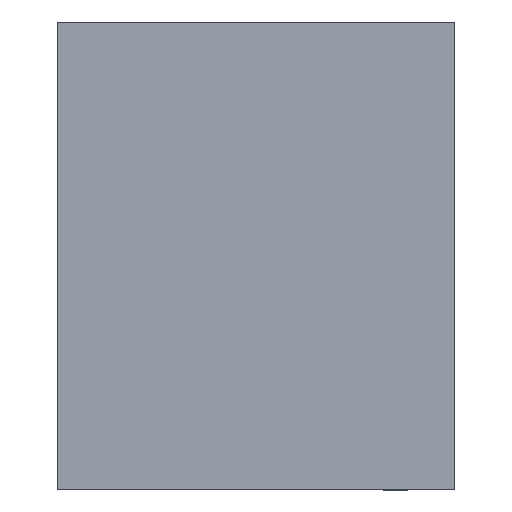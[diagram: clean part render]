
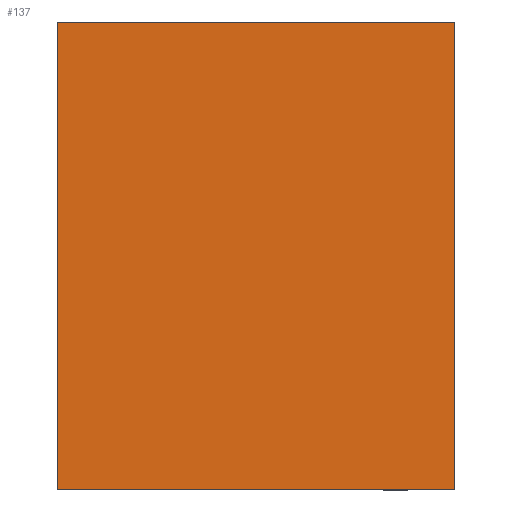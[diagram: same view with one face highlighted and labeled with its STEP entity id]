
A CAD part, front view. The second image highlights one B-rep face of the part: STEP entity #137.
In plain terms, the highlighted planar face has unit normal (0, -1, 0).
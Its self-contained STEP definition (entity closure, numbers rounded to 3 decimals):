
#21 = EDGE_CURVE('',#22,#24,#26,.T.);
#22 = VERTEX_POINT('',#23);
#23 = CARTESIAN_POINT('',(-42.5,-20.25,-50.));
#24 = VERTEX_POINT('',#25);
#25 = CARTESIAN_POINT('',(-42.5,-20.25,50.));
#26 = SURFACE_CURVE('',#27,(#31,#43),.PCURVE_S1.);
#27 = LINE('',#28,#29);
#28 = CARTESIAN_POINT('',(-42.5,-20.25,-50.));
#29 = VECTOR('',#30,1.);
#30 = DIRECTION('',(0.,0.,1.));
#31 = PCURVE('',#32,#37);
#32 = PLANE('',#33);
#33 = AXIS2_PLACEMENT_3D('',#34,#35,#36);
#34 = CARTESIAN_POINT('',(-42.5,-20.25,-50.));
#35 = DIRECTION('',(1.,0.,0.));
#36 = DIRECTION('',(0.,0.,1.));
#37 = DEFINITIONAL_REPRESENTATION('',(#38),#42);
#38 = LINE('',#39,#40);
#39 = CARTESIAN_POINT('',(0.,0.));
#40 = VECTOR('',#41,1.);
#41 = DIRECTION('',(1.,0.));
#42 = ( GEOMETRIC_REPRESENTATION_CONTEXT(2) 
PARAMETRIC_REPRESENTATION_CONTEXT() REPRESENTATION_CONTEXT('2D SPACE',''
  ) );
#43 = PCURVE('',#44,#49);
#44 = PLANE('',#45);
#45 = AXIS2_PLACEMENT_3D('',#46,#47,#48);
#46 = CARTESIAN_POINT('',(-42.5,-20.25,-50.));
#47 = DIRECTION('',(0.,1.,0.));
#48 = DIRECTION('',(0.,0.,1.));
#49 = DEFINITIONAL_REPRESENTATION('',(#50),#54);
#50 = LINE('',#51,#52);
#51 = CARTESIAN_POINT('',(0.,0.));
#52 = VECTOR('',#53,1.);
#53 = DIRECTION('',(1.,0.));
#54 = ( GEOMETRIC_REPRESENTATION_CONTEXT(2) 
PARAMETRIC_REPRESENTATION_CONTEXT() REPRESENTATION_CONTEXT('2D SPACE',''
  ) );
#72 = PLANE('',#73);
#73 = AXIS2_PLACEMENT_3D('',#74,#75,#76);
#74 = CARTESIAN_POINT('',(-42.5,-20.25,-50.));
#75 = DIRECTION('',(0.,0.,1.));
#76 = DIRECTION('',(1.,0.,0.));
#126 = PLANE('',#127);
#127 = AXIS2_PLACEMENT_3D('',#128,#129,#130);
#128 = CARTESIAN_POINT('',(-42.5,-20.25,50.));
#129 = DIRECTION('',(0.,0.,1.));
#130 = DIRECTION('',(1.,0.,0.));
#137 = ADVANCED_FACE('',(#138),#44,.F.);
#138 = FACE_BOUND('',#139,.F.);
#139 = EDGE_LOOP('',(#140,#163,#164,#187));
#140 = ORIENTED_EDGE('',*,*,#141,.F.);
#141 = EDGE_CURVE('',#22,#142,#144,.T.);
#142 = VERTEX_POINT('',#143);
#143 = CARTESIAN_POINT('',(42.5,-20.25,-50.));
#144 = SURFACE_CURVE('',#145,(#149,#156),.PCURVE_S1.);
#145 = LINE('',#146,#147);
#146 = CARTESIAN_POINT('',(-42.5,-20.25,-50.));
#147 = VECTOR('',#148,1.);
#148 = DIRECTION('',(1.,0.,0.));
#149 = PCURVE('',#44,#150);
#150 = DEFINITIONAL_REPRESENTATION('',(#151),#155);
#151 = LINE('',#152,#153);
#152 = CARTESIAN_POINT('',(0.,0.));
#153 = VECTOR('',#154,1.);
#154 = DIRECTION('',(0.,1.));
#155 = ( GEOMETRIC_REPRESENTATION_CONTEXT(2) 
PARAMETRIC_REPRESENTATION_CONTEXT() REPRESENTATION_CONTEXT('2D SPACE',''
  ) );
#156 = PCURVE('',#72,#157);
#157 = DEFINITIONAL_REPRESENTATION('',(#158),#162);
#158 = LINE('',#159,#160);
#159 = CARTESIAN_POINT('',(0.,0.));
#160 = VECTOR('',#161,1.);
#161 = DIRECTION('',(1.,0.));
#162 = ( GEOMETRIC_REPRESENTATION_CONTEXT(2) 
PARAMETRIC_REPRESENTATION_CONTEXT() REPRESENTATION_CONTEXT('2D SPACE',''
  ) );
#163 = ORIENTED_EDGE('',*,*,#21,.T.);
#164 = ORIENTED_EDGE('',*,*,#165,.T.);
#165 = EDGE_CURVE('',#24,#166,#168,.T.);
#166 = VERTEX_POINT('',#167);
#167 = CARTESIAN_POINT('',(42.5,-20.25,50.));
#168 = SURFACE_CURVE('',#169,(#173,#180),.PCURVE_S1.);
#169 = LINE('',#170,#171);
#170 = CARTESIAN_POINT('',(-42.5,-20.25,50.));
#171 = VECTOR('',#172,1.);
#172 = DIRECTION('',(1.,0.,0.));
#173 = PCURVE('',#44,#174);
#174 = DEFINITIONAL_REPRESENTATION('',(#175),#179);
#175 = LINE('',#176,#177);
#176 = CARTESIAN_POINT('',(100.,0.));
#177 = VECTOR('',#178,1.);
#178 = DIRECTION('',(0.,1.));
#179 = ( GEOMETRIC_REPRESENTATION_CONTEXT(2) 
PARAMETRIC_REPRESENTATION_CONTEXT() REPRESENTATION_CONTEXT('2D SPACE',''
  ) );
#180 = PCURVE('',#126,#181);
#181 = DEFINITIONAL_REPRESENTATION('',(#182),#186);
#182 = LINE('',#183,#184);
#183 = CARTESIAN_POINT('',(0.,0.));
#184 = VECTOR('',#185,1.);
#185 = DIRECTION('',(1.,0.));
#186 = ( GEOMETRIC_REPRESENTATION_CONTEXT(2) 
PARAMETRIC_REPRESENTATION_CONTEXT() REPRESENTATION_CONTEXT('2D SPACE',''
  ) );
#187 = ORIENTED_EDGE('',*,*,#188,.F.);
#188 = EDGE_CURVE('',#142,#166,#189,.T.);
#189 = SURFACE_CURVE('',#190,(#194,#201),.PCURVE_S1.);
#190 = LINE('',#191,#192);
#191 = CARTESIAN_POINT('',(42.5,-20.25,-50.));
#192 = VECTOR('',#193,1.);
#193 = DIRECTION('',(0.,0.,1.));
#194 = PCURVE('',#44,#195);
#195 = DEFINITIONAL_REPRESENTATION('',(#196),#200);
#196 = LINE('',#197,#198);
#197 = CARTESIAN_POINT('',(0.,85.));
#198 = VECTOR('',#199,1.);
#199 = DIRECTION('',(1.,0.));
#200 = ( GEOMETRIC_REPRESENTATION_CONTEXT(2) 
PARAMETRIC_REPRESENTATION_CONTEXT() REPRESENTATION_CONTEXT('2D SPACE',''
  ) );
#201 = PCURVE('',#202,#207);
#202 = PLANE('',#203);
#203 = AXIS2_PLACEMENT_3D('',#204,#205,#206);
#204 = CARTESIAN_POINT('',(42.5,-20.25,-50.));
#205 = DIRECTION('',(1.,0.,0.));
#206 = DIRECTION('',(0.,0.,1.));
#207 = DEFINITIONAL_REPRESENTATION('',(#208),#212);
#208 = LINE('',#209,#210);
#209 = CARTESIAN_POINT('',(0.,0.));
#210 = VECTOR('',#211,1.);
#211 = DIRECTION('',(1.,0.));
#212 = ( GEOMETRIC_REPRESENTATION_CONTEXT(2) 
PARAMETRIC_REPRESENTATION_CONTEXT() REPRESENTATION_CONTEXT('2D SPACE',''
  ) );
